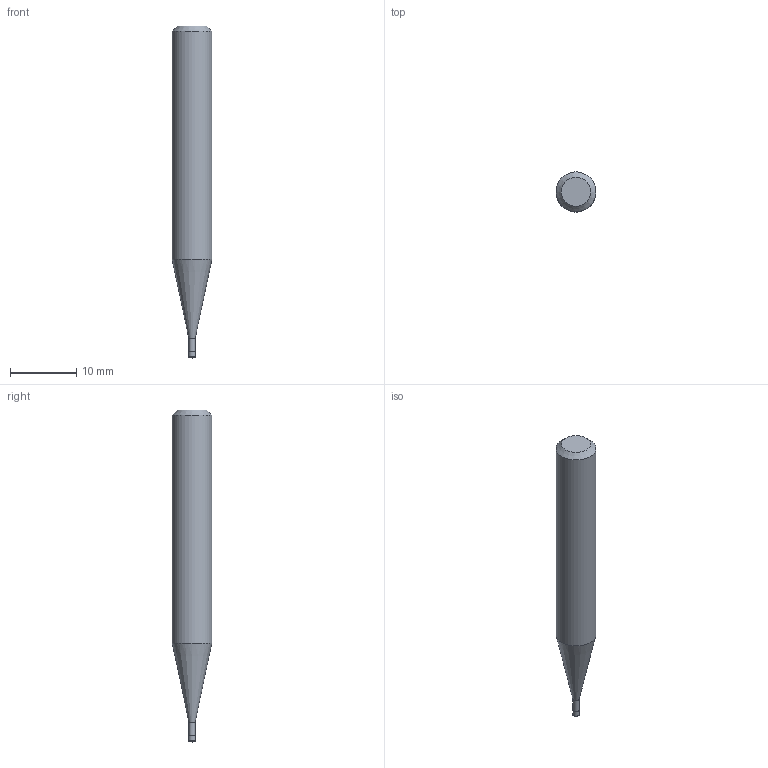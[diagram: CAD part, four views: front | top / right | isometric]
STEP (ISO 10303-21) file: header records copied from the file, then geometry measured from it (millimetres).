
FILE_DESCRIPTION((''),'2;1');
FILE_NAME('C:\Users\nsx150\AppData\Local\Temp\Mastercam 2022\4YL0L911CD\TEMP.stp','2023-10-12T17:18:44',(''),(''),'STEP Write','Mastercam 2022 ... CNC Software, Inc.','');
FILE_SCHEMA(('AUTOMOTIVE_DESIGN'));
Length unit declared in the file: millimetre
Products named in the file (1): None
Bounding box: 6 x 6 x 50 mm (x, y, z)
Volume: 1122.2 mm3; surface area: 824.2 mm2
Topology: 2 solids, 2 shells, 11 faces, 17 edges, 10 vertices
Faces by surface type: plane 4, cylinder 3, cone 2, torus 1, sphere 1
Full cylindrical faces by diameter (mm): 0.95 x1, 1 x1, 6 x1
Entity records: 253 total; most frequent: DIRECTION 44, CARTESIAN_POINT 31, AXIS2_PLACEMENT_3D 22, ORIENTED_EDGE 18, EDGE_LOOP 18, STYLED_ITEM 14, FACE_BOUND 11, ADVANCED_FACE 11
